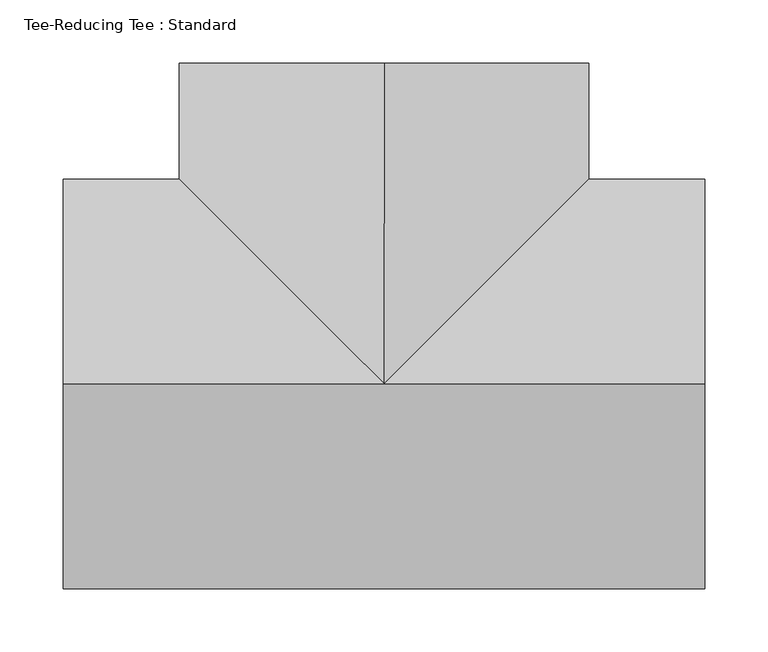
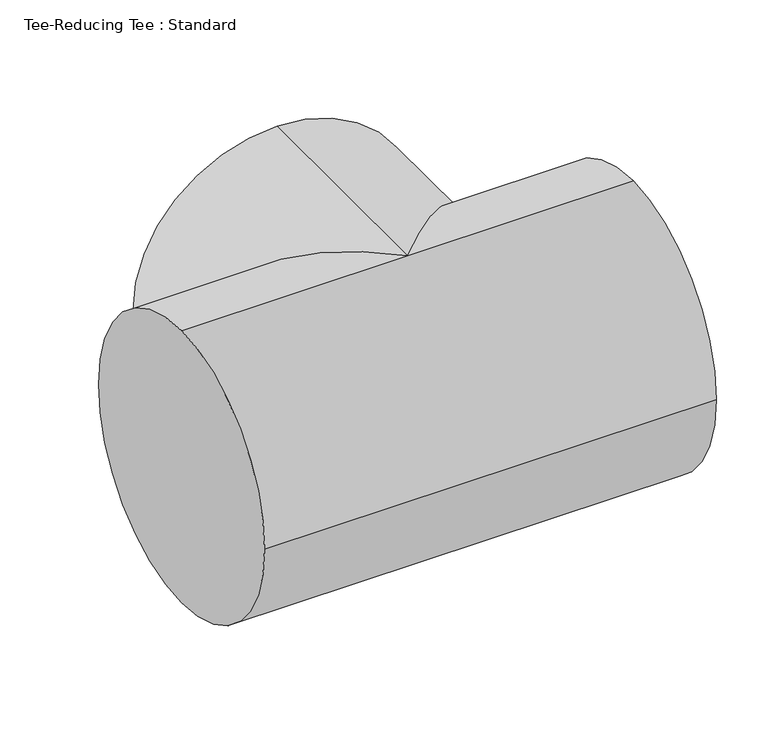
"""IFC4 building model written with IfcOpenShell, lengths in millimetres: pipe fitting geometry, Tee-Reducing Tee : Standard."""

from ifc_helpers import new_model, si_unit, frame, origin, place, context, project, spatial, circle_curve, ellipse_curve, source, transform, mapped, element, save
from ifc_brep_helpers import plane_surface, cylinder_surface, advanced_brep


def tee_reducing_tee_standard_1c4ffe1e(model_context):
    return source(origin(), model_context, "Body", "AdvancedBrep", [
        advanced_brep(
        [(-231.9746149, 0.0, 161.925), (-231.9746149, 161.925, 0.0), (-231.9746149, 0.0, -161.925), (-231.9746149, -161.925, 0.0), (276.0253851, 0.0, 161.925), (276.0253851, -161.925, 0.0), (276.0253851, 0.0, -161.925), (276.0253851, 161.925, 0.0), (22.0253851, 0.0, 161.925), (-139.8996149, 161.925, 0.0), (183.9503851, 161.925, 0.0), (22.0253851, 0.0, -161.925), (22.0253851, 254.0, 161.925), (183.9503851, 254.0, 0.0), (22.0253851, 254.0, -161.925), (-139.8996149, 254.0, 0.0)],
        [
            (0, 1, circle_curve(frame((-231.9746149, 0.0, 0.0), z_axis=(-1.0, 0.0, 0.0), x_axis=(0.0, 1.0, 0.0)), 161.925)),
            (1, 2, circle_curve(frame((-231.9746149, 0.0, 0.0), z_axis=(-1.0, 0.0, 0.0), x_axis=(0.0, 1.0, 0.0)), 161.925)),
            (2, 3, circle_curve(frame((-231.9746149, 0.0, 0.0), z_axis=(-1.0, 0.0, 0.0), x_axis=(0.0, 1.0, 0.0)), 161.925)),
            (3, 0, circle_curve(frame((-231.9746149, 0.0, 0.0), z_axis=(-1.0, 0.0, 0.0), x_axis=(0.0, 1.0, 0.0)), 161.925)),
            (4, 5, circle_curve(frame((276.0253851, 0.0, 0.0), z_axis=(1.0, 0.0, 0.0), x_axis=(0.0, 1.0, 0.0)), 161.925)),
            (5, 6, circle_curve(frame((276.0253851, 0.0, 0.0), z_axis=(1.0, 0.0, 0.0), x_axis=(0.0, 1.0, 0.0)), 161.925)),
            (6, 7, circle_curve(frame((276.0253851, 0.0, 0.0), z_axis=(1.0, 0.0, 0.0), x_axis=(0.0, 1.0, 0.0)), 161.925)),
            (7, 4, circle_curve(frame((276.0253851, 0.0, 0.0), z_axis=(1.0, 0.0, 0.0), x_axis=(0.0, 1.0, 0.0)), 161.925)),
            (0, 8),
            (8, 9, ellipse_curve(frame((22.0253851, 0.0, 0.0), z_axis=(-0.7071067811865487, -0.7071067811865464, 0.0), x_axis=(-0.7071067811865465, 0.7071067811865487, 0.0)), 228.9965311, 161.925)),
            (9, 1),
            (7, 10),
            (10, 8, ellipse_curve(frame((22.0253851, 0.0, 0.0), z_axis=(0.7071067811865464, -0.7071067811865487, 0.0), x_axis=(-0.7071067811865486, -0.7071067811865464, 0.0)), 228.9965311, 161.925)),
            (8, 4),
            (9, 11, ellipse_curve(frame((22.0253851, 0.0, 0.0), z_axis=(-0.7071067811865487, -0.7071067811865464, 0.0), x_axis=(-0.7071067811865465, 0.7071067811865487, 0.0)), 228.9965311, 161.925)),
            (11, 2),
            (6, 11),
            (11, 10, ellipse_curve(frame((22.0253851, 0.0, 0.0), z_axis=(0.7071067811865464, -0.7071067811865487, 0.0), x_axis=(-0.7071067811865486, -0.7071067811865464, 0.0)), 228.9965311, 161.925)),
            (5, 3),
            (12, 13, circle_curve(frame((22.0253851, 254.0, 0.0), z_axis=(0.0, 1.0, 0.0), x_axis=(-1.0, 0.0, 0.0)), 161.925)),
            (13, 14, circle_curve(frame((22.0253851, 254.0, 0.0), z_axis=(0.0, 1.0, 0.0), x_axis=(-1.0, 0.0, 0.0)), 161.925)),
            (14, 15, circle_curve(frame((22.0253851, 254.0, 0.0), z_axis=(0.0, 1.0, 0.0), x_axis=(-1.0, 0.0, 0.0)), 161.925)),
            (15, 12, circle_curve(frame((22.0253851, 254.0, 0.0), z_axis=(0.0, 1.0, 0.0), x_axis=(-1.0, 0.0, 0.0)), 161.925)),
            (15, 9),
            (8, 12),
            (14, 11),
            (13, 10),
        ],
        [
            plane_surface(frame((-231.9746149, 0.0, 0.0), z_axis=(-1.0, 0.0, 0.0), x_axis=(0.0, 0.0, 1.0))),
            plane_surface(frame((276.0253851, 0.0, 0.0), z_axis=(1.0, 0.0, 0.0), x_axis=(0.0, 0.0, 1.0))),
            cylinder_surface(frame((-231.9746149, 0.0, 0.0), z_axis=(-1.0, 0.0, 0.0), x_axis=(0.0, 1.0, 0.0)), 161.925),
            plane_surface(frame((22.0253851, 254.0, 0.0), z_axis=(0.0, 1.0, 0.0), x_axis=(0.0, 0.0, 1.0))),
            cylinder_surface(frame((22.0253851, 0.0, 0.0), z_axis=(0.0, -1.0, 0.0), x_axis=(-1.0, 0.0, 0.0)), 161.925),
        ],
        [
            (0, [[1, 2, 3, 4]]),
            (1, [[5, 6, 7, 8]]),
            (2, [[-1, 9, 10, 11]]),
            (2, [[-8, 12, 13, 14]]),
            (2, [[-2, -11, 15, 16]]),
            (2, [[-7, 17, 18, -12]]),
            (2, [[-3, -16, -17, -6, 19]]),
            (2, [[-4, -19, -5, -14, -9]]),
            (3, [[20, 21, 22, 23]]),
            (4, [[-23, 24, -10, 25]]),
            (4, [[-22, 26, -15, -24]]),
            (4, [[-21, 27, -18, -26]]),
            (4, [[-20, -25, -13, -27]]),
        ],
    ),
    ])


if __name__ == "__main__":
    model = new_model("IFC4")
    model_context = context("Model", 3, world=origin())
    ifc_project = project(units=[si_unit("LENGTHUNIT", "METRE", prefix="MILLI")], contexts=[model_context])
    site = spatial("IfcSite", under=ifc_project)
    building = spatial("IfcBuilding", under=site)
    placement = place(None, origin())
    tee_reducing_tee_standard_shape = tee_reducing_tee_standard_1c4ffe1e(model_context)
    element("IfcPipeFitting", 1, ObjectType="Tee-Reducing Tee : Standard", at=placement, inside=building, context=model_context, shape_type="MappedRepresentation", body=[
        mapped(tee_reducing_tee_standard_shape, transform((0.0, 0.0, 0.0), x_axis=(1.0, 0.0, 0.0), y_axis=(0.0, 1.0, 0.0), z_axis=(0.0, 0.0, 1.0))),
    ])
    save(model, "model.ifc")
